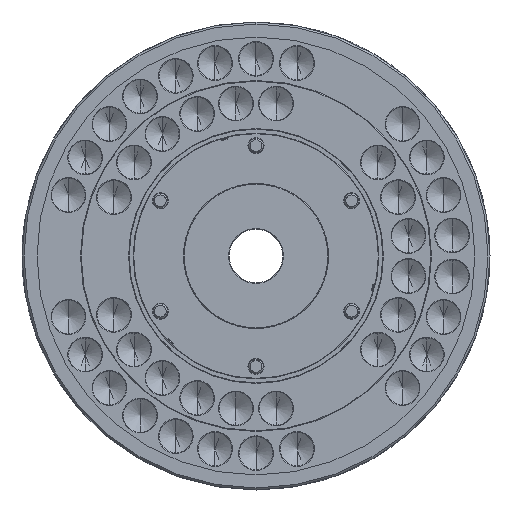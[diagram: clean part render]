
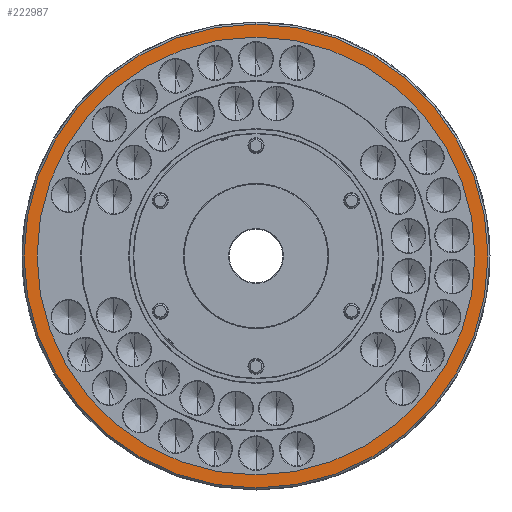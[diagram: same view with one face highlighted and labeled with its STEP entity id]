
A CAD part, left-side view. The second image highlights one B-rep face of the part: STEP entity #222987.
In plain terms, the highlighted planar face has unit normal (-1, 0, 0).
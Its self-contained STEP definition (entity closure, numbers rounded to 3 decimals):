
#14490 = PLANE ( 'NONE',  #141670 ) ;
#21994 = CARTESIAN_POINT ( 'NONE',  ( -149., 0., -327.5 ) ) ;
#22673 = DIRECTION ( 'NONE',  ( 1., 0., 0. ) ) ;
#31822 = AXIS2_PLACEMENT_3D ( 'NONE', #230644, #228099, #186557 ) ;
#37196 = EDGE_CURVE ( 'NONE', #184321, #155061, #78990, .T. ) ;
#37203 = CARTESIAN_POINT ( 'NONE',  ( -149., 0., 347. ) ) ;
#38288 = EDGE_LOOP ( 'NONE', ( #112766, #218675 ) ) ;
#47122 = EDGE_CURVE ( 'NONE', #218709, #115674, #218574, .T. ) ;
#54736 = DIRECTION ( 'NONE',  ( 0., 0., 1. ) ) ;
#60233 = ORIENTED_EDGE ( 'NONE', *, *, #37196, .T. ) ;
#65799 = DIRECTION ( 'NONE',  ( 1., 0., 0. ) ) ;
#73823 = AXIS2_PLACEMENT_3D ( 'NONE', #196871, #22673, #256608 ) ;
#78990 = CIRCLE ( 'NONE', #87340, 327.5 ) ;
#81746 = DIRECTION ( 'NONE',  ( 0., 0., -1. ) ) ;
#83624 = AXIS2_PLACEMENT_3D ( 'NONE', #102527, #224595, #81746 ) ;
#87340 = AXIS2_PLACEMENT_3D ( 'NONE', #226847, #65799, #108632 ) ;
#97184 = ORIENTED_EDGE ( 'NONE', *, *, #173190, .T. ) ;
#102527 = CARTESIAN_POINT ( 'NONE',  ( -149., 0., 0. ) ) ;
#108632 = DIRECTION ( 'NONE',  ( 0., 0., -1. ) ) ;
#112766 = ORIENTED_EDGE ( 'NONE', *, *, #47122, .F. ) ;
#115674 = VERTEX_POINT ( 'NONE', #37203 ) ;
#141670 = AXIS2_PLACEMENT_3D ( 'NONE', #153494, #174255, #54736 ) ;
#151926 = EDGE_LOOP ( 'NONE', ( #60233, #97184 ) ) ;
#153494 = CARTESIAN_POINT ( 'NONE',  ( -149., 347., 0. ) ) ;
#155061 = VERTEX_POINT ( 'NONE', #167267 ) ;
#167267 = CARTESIAN_POINT ( 'NONE',  ( -149., 0., 327.5 ) ) ;
#173190 = EDGE_CURVE ( 'NONE', #155061, #184321, #203797, .T. ) ;
#174255 = DIRECTION ( 'NONE',  ( -1., 0., 0. ) ) ;
#184321 = VERTEX_POINT ( 'NONE', #21994 ) ;
#186557 = DIRECTION ( 'NONE',  ( 0., 0., -1. ) ) ;
#196871 = CARTESIAN_POINT ( 'NONE',  ( -149., 0., 0. ) ) ;
#203797 = CIRCLE ( 'NONE', #83624, 327.5 ) ;
#204255 = EDGE_CURVE ( 'NONE', #115674, #218709, #239636, .T. ) ;
#215823 = FACE_OUTER_BOUND ( 'NONE', #38288, .T. ) ;
#218574 = CIRCLE ( 'NONE', #31822, 347. ) ;
#218675 = ORIENTED_EDGE ( 'NONE', *, *, #204255, .F. ) ;
#218709 = VERTEX_POINT ( 'NONE', #240738 ) ;
#222987 = ADVANCED_FACE ( 'NONE', ( #232732, #215823 ), #14490, .T. ) ;
#224595 = DIRECTION ( 'NONE',  ( 1., 0., 0. ) ) ;
#226847 = CARTESIAN_POINT ( 'NONE',  ( -149., 0., 0. ) ) ;
#228099 = DIRECTION ( 'NONE',  ( 1., 0., 0. ) ) ;
#230644 = CARTESIAN_POINT ( 'NONE',  ( -149., 0., 0. ) ) ;
#232732 = FACE_BOUND ( 'NONE', #151926, .T. ) ;
#239636 = CIRCLE ( 'NONE', #73823, 347. ) ;
#240738 = CARTESIAN_POINT ( 'NONE',  ( -149., 0., -347. ) ) ;
#256608 = DIRECTION ( 'NONE',  ( 0., 0., -1. ) ) ;
